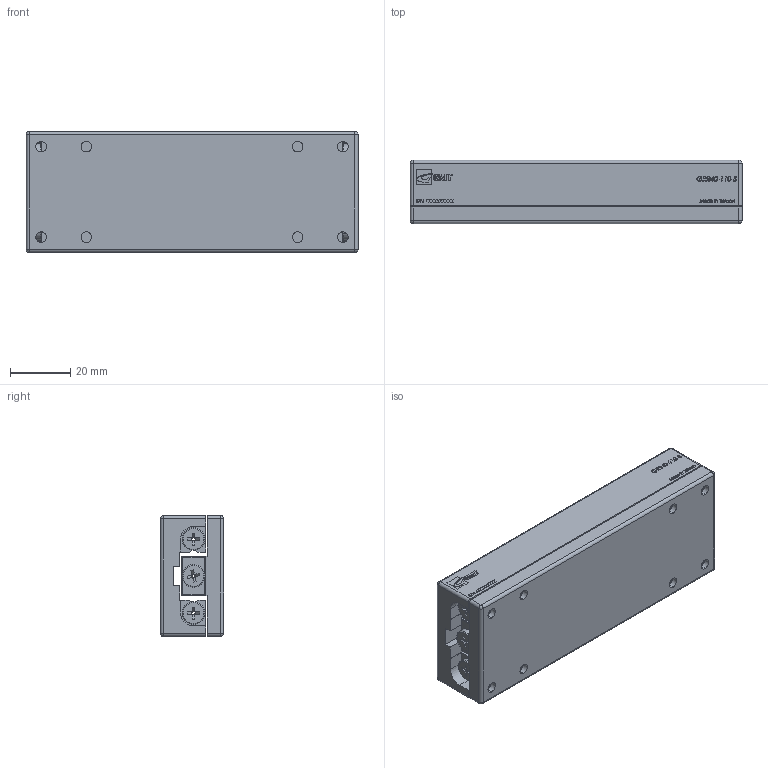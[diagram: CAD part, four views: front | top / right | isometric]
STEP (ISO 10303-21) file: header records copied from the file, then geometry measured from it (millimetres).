
FILE_DESCRIPTION (( 'STEP AP203' ), '1' );
FILE_NAME ('GRB40-110-S.STEP', '2013-12-17T06:25:11', ( '' ), ( '' ), 'SwSTEP 2.0', 'SolidWorks 2013', '' );
FILE_SCHEMA (( 'CONFIG_CONTROL_DESIGN' ));
Length unit declared in the file: millimetre
Products named in the file (1): GRB40-110-S
Bounding box: 110 x 21 x 40.07 mm (x, y, z)
Surface area: 27924.5 mm2 (no closed solid volume)
Topology: 0 solids, 44 shells, 361 faces, 1972 edges, 1622 vertices
Faces by surface type: plane 206, cylinder 97, cone 24, torus 20, sphere 8, bspline 6
Entity records: 23496 total; most frequent: CARTESIAN_POINT 8902, DIRECTION 2696, ORIENTED_EDGE 2666, EDGE_CURVE 1964, VERTEX_POINT 1622, LINE 1188, VECTOR 1188, AXIS2_PLACEMENT_3D 754
